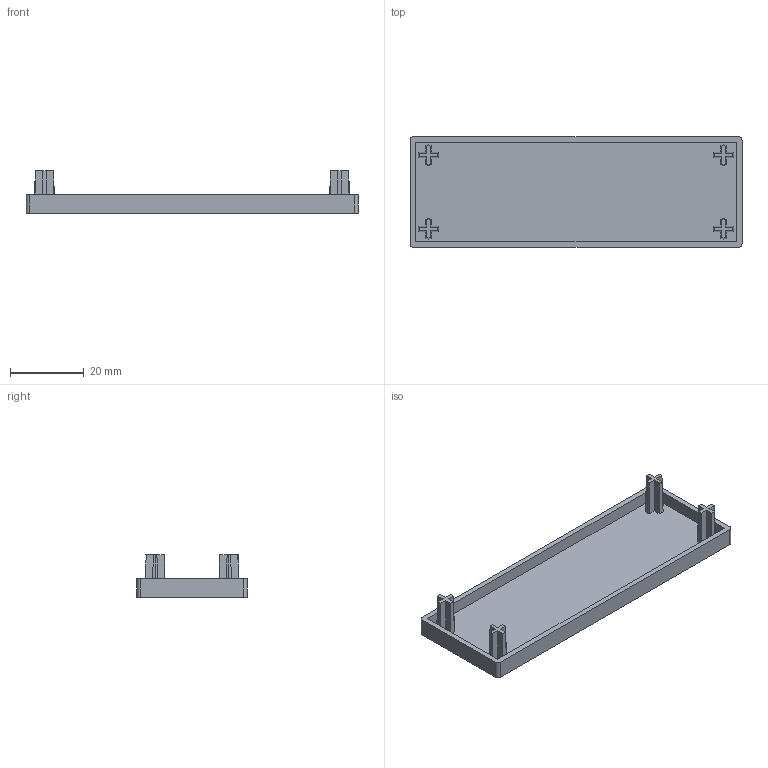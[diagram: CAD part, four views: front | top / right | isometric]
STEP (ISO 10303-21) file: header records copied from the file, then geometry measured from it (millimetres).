
FILE_DESCRIPTION (( 'STEP AP203' ), '1' );
FILE_NAME ('EC3090-6.STEP', '2024-02-17T07:14:00', ( '' ), ( '' ), 'SwSTEP 2.0', 'SolidWorks 2022', '' );
FILE_SCHEMA (( 'CONFIG_CONTROL_DESIGN' ));
Length unit declared in the file: millimetre
Products named in the file (1): EC3090-6
Bounding box: 90 x 30 x 11.5 mm (x, y, z)
Volume: 5727.6 mm3; surface area: 8182.7 mm2
Topology: 1 solids, 1 shells, 71 faces, 192 edges, 128 vertices
Faces by surface type: plane 47, cone 20, cylinder 4
Entity records: 2439 total; most frequent: CARTESIAN_POINT 584, ORIENTED_EDGE 384, DIRECTION 352, EDGE_CURVE 192, VERTEX_POINT 128, AXIS2_PLACEMENT_3D 120, LINE 112, VECTOR 112
